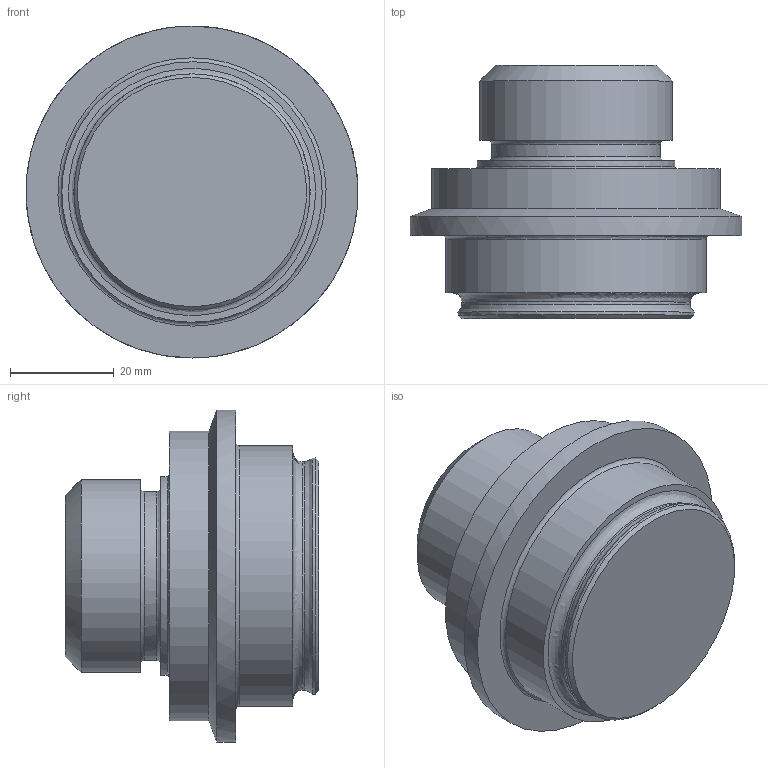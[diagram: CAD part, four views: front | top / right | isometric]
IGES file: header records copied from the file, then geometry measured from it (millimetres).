
Global section: file name: 102406 1.0 & 1.5 ; native system: Autodesk Inventor 2020; preprocessor: unknown; author: H7M44K; date: 20210423.111636; units: inch
Bounding box: 63.85 x 48.77 x 63.88 mm (x, y, z)
Volume: 84317.5 mm3; surface area: 13364.1 mm2
Topology: 1 solids, 1 shells, 24 faces, 67 edges, 50 vertices
Faces by surface type: bspline 24
